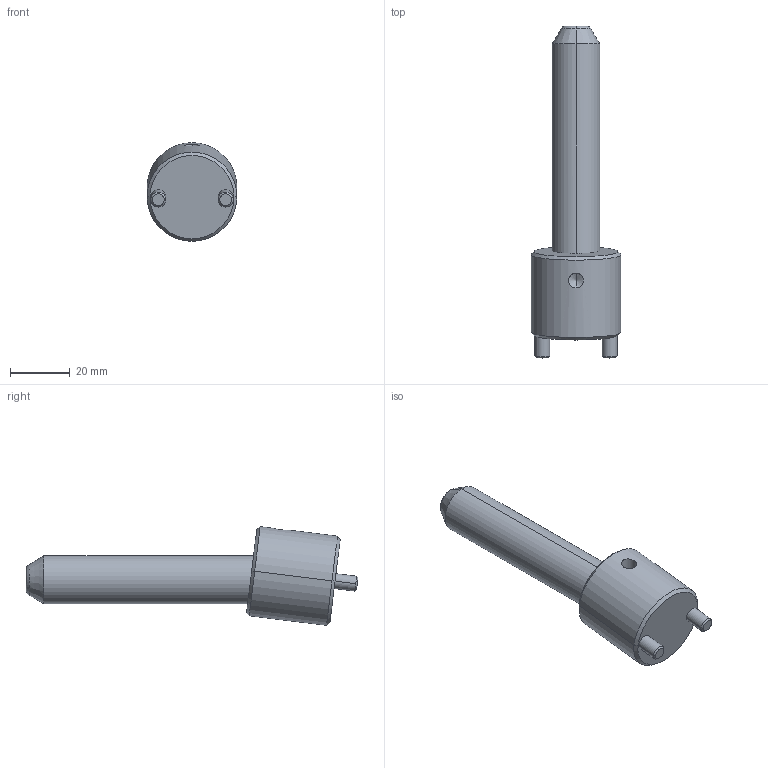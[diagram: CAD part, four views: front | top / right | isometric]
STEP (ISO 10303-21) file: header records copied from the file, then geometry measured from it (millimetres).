
FILE_DESCRIPTION((''),'2;1');
FILE_NAME('CI0716075_ASM','2018-01-17T',('MANU'),(''),'PRO/ENGINEER BY PARAMETRIC TECHNOLOGY CORPORATION, 2012130','PRO/ENGINEER BY PARAMETRIC TECHNOLOGY CORPORATION, 2012130','');
FILE_SCHEMA(('CONFIG_CONTROL_DESIGN'));
Length unit declared in the file: millimetre
Products named in the file (3): CP1675; CS0716; CI0716075_ASM
Assembly tree (2 placements, depth 2):
  CI0716075_ASM
    CP1675
    CS0716
Bounding box: 30 x 110.84 x 32.95 mm (x, y, z)
Volume: 34310.9 mm3; surface area: 10726.8 mm2
Topology: 2 solids, 2 shells, 37 faces, 76 edges, 43 vertices
Faces by surface type: cone 14, cylinder 14, plane 7, torus 2
Entity records: 1168 total; most frequent: CARTESIAN_POINT 299, DIRECTION 186, ORIENTED_EDGE 148, AXIS2_PLACEMENT_3D 78, EDGE_CURVE 74, VERTEX_POINT 43, EDGE_LOOP 41, FACE_OUTER_BOUND 37
